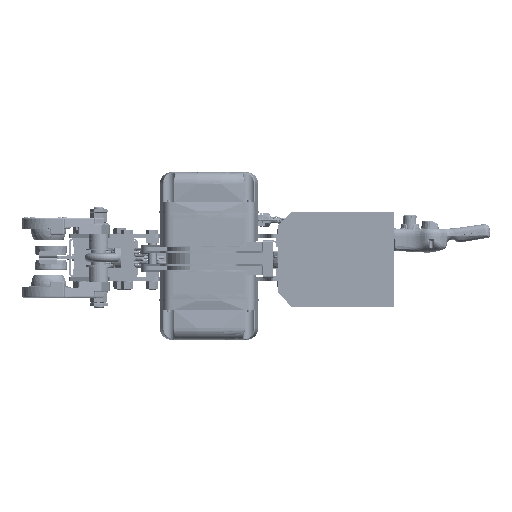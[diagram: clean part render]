
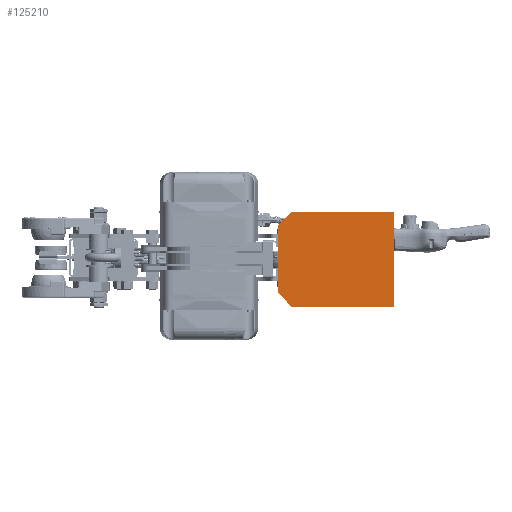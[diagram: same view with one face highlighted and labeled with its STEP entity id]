
A CAD part, left-side view. The second image highlights one B-rep face of the part: STEP entity #125210.
In plain terms, the highlighted planar face has unit normal (-1, 0, 0).
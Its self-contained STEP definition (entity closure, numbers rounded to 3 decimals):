
#9385=LINE('',#192854,#19644);
#9406=LINE('',#192897,#19665);
#9409=LINE('',#192902,#19668);
#9417=LINE('',#192919,#19676);
#9420=LINE('',#192924,#19679);
#9421=LINE('',#192926,#19680);
#19644=VECTOR('',#155457,157.);
#19665=VECTOR('',#155500,43.863);
#19668=VECTOR('',#155505,43.863);
#19676=VECTOR('',#155519,221.);
#19679=VECTOR('',#155526,240.);
#19680=VECTOR('',#155529,240.);
#28125=PLANE('',#134822);
#34476=FACE_OUTER_BOUND('',#42749,.T.);
#42749=EDGE_LOOP('',(#95389,#95390,#95391,#95392,#95393,#95394));
#57802=VERTEX_POINT('',#192851);
#57803=VERTEX_POINT('',#192853);
#57814=VERTEX_POINT('',#192896);
#57815=VERTEX_POINT('',#192900);
#57820=VERTEX_POINT('',#192916);
#57821=VERTEX_POINT('',#192918);
#71530=EDGE_CURVE('',#57803,#57802,#9385,.T.);
#71551=EDGE_CURVE('',#57814,#57803,#9406,.T.);
#71554=EDGE_CURVE('',#57802,#57815,#9409,.T.);
#71562=EDGE_CURVE('',#57821,#57820,#9417,.T.);
#71565=EDGE_CURVE('',#57821,#57815,#9420,.T.);
#71566=EDGE_CURVE('',#57814,#57820,#9421,.T.);
#95389=ORIENTED_EDGE('',*,*,#71562,.T.);
#95390=ORIENTED_EDGE('',*,*,#71566,.F.);
#95391=ORIENTED_EDGE('',*,*,#71551,.T.);
#95392=ORIENTED_EDGE('',*,*,#71530,.T.);
#95393=ORIENTED_EDGE('',*,*,#71554,.T.);
#95394=ORIENTED_EDGE('',*,*,#71565,.F.);
#125210=ADVANCED_FACE('',(#34476),#28125,.T.);
#134822=AXIS2_PLACEMENT_3D('',#192925,#155527,#155528);
#155457=DIRECTION('',(0.,-1.,0.));
#155500=DIRECTION('',(0.,-0.73,-0.684));
#155505=DIRECTION('',(0.,-0.73,0.684));
#155519=DIRECTION('',(0.,1.,0.));
#155526=DIRECTION('',(0.,0.,-1.));
#155527=DIRECTION('center_axis',(-1.,0.,0.));
#155528=DIRECTION('ref_axis',(0.,0.,1.));
#155529=DIRECTION('',(0.,0.,1.));
#192851=CARTESIAN_POINT('',(-109.5,-78.5,-150.));
#192853=CARTESIAN_POINT('',(-109.5,78.5,-150.));
#192854=CARTESIAN_POINT('',(-109.5,78.5,-150.));
#192896=CARTESIAN_POINT('',(-109.5,110.5,-120.));
#192897=CARTESIAN_POINT('',(-109.5,110.5,-120.));
#192900=CARTESIAN_POINT('',(-109.5,-110.5,-120.));
#192902=CARTESIAN_POINT('',(-109.5,-78.5,-150.));
#192916=CARTESIAN_POINT('',(-109.5,110.5,120.));
#192918=CARTESIAN_POINT('',(-109.5,-110.5,120.));
#192919=CARTESIAN_POINT('',(-109.5,-110.5,120.));
#192924=CARTESIAN_POINT('',(-109.5,-110.5,0.));
#192925=CARTESIAN_POINT('Origin',(-109.5,-110.5,0.));
#192926=CARTESIAN_POINT('',(-109.5,110.5,0.));
